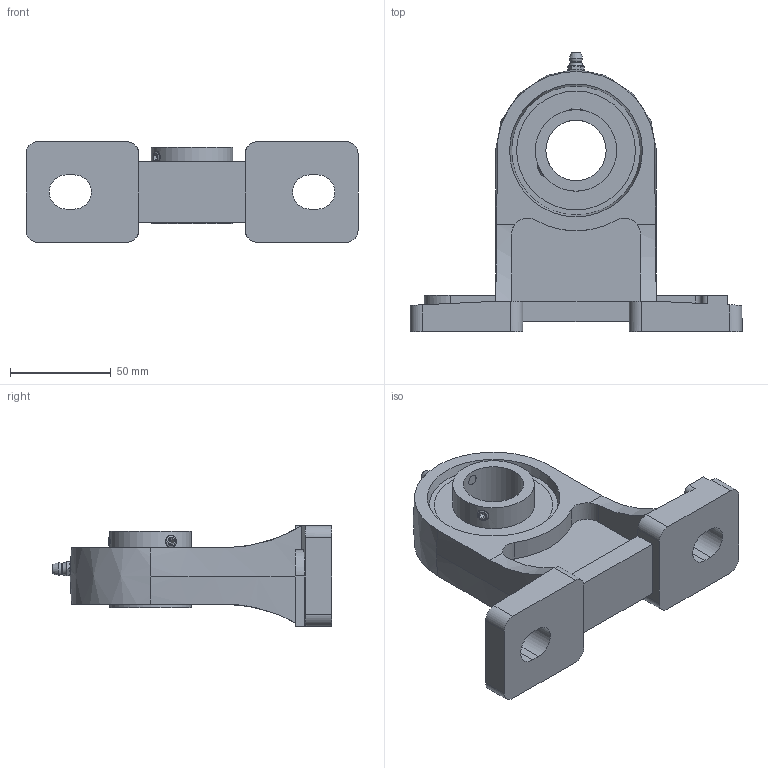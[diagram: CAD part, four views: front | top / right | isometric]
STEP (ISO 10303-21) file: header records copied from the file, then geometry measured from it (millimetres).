
FILE_DESCRIPTION((''),'2;1');
FILE_NAME('\\Ts-tgl068\j-cad-d-base\00.3DCADデータ作成フォルダ\01.ピロー形\UCPH200\UCPH206.stp','2014-04-18T08:30:20',('btec_1106_2'),(''),'Autodesk Inventor 2012','Autodesk Inventor 2012','');
FILE_SCHEMA(('AUTOMOTIVE_DESIGN { 1 0 10303 214 1 1 1 1 }'));
Length unit declared in the file: millimetre
Products named in the file (4): UCPH200; PH [番手=206 ul]; シリーズUC [番手=206 ul]; GU1
Assembly tree (3 placements, depth 2):
  UCPH200
    PH [番手=206 ul]
    シリーズUC [番手=206 ul]
    GU1
Bounding box: 165 x 138.79 x 50 mm (x, y, z)
Volume: 252207.6 mm3; surface area: 63614.6 mm2
Topology: 3 solids, 3 shells, 143 faces, 361 edges, 233 vertices
Faces by surface type: plane 76, cylinder 39, cone 17, bspline 5, sphere 4, torus 2
Full cylindrical faces by diameter (mm): 5.359 x1, 6 x2, 6.35 x1, 30 x1, 40.5 x2
Entity records: 4534 total; most frequent: CARTESIAN_POINT 1128, DIRECTION 668, ORIENTED_EDGE 662, EDGE_CURVE 331, AXIS2_PLACEMENT_3D 244, VERTEX_POINT 223, EDGE_LOOP 182, VECTOR 180
